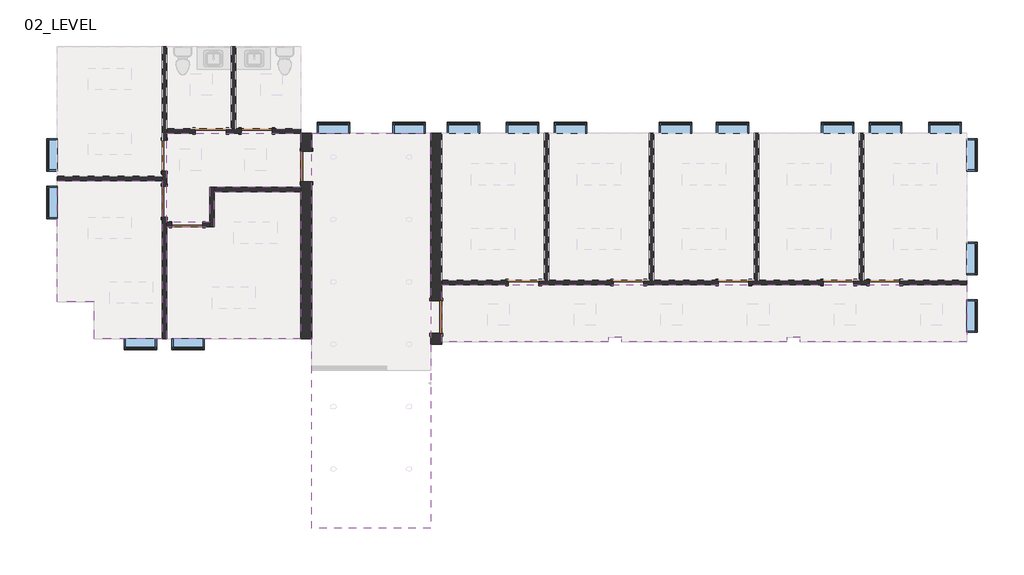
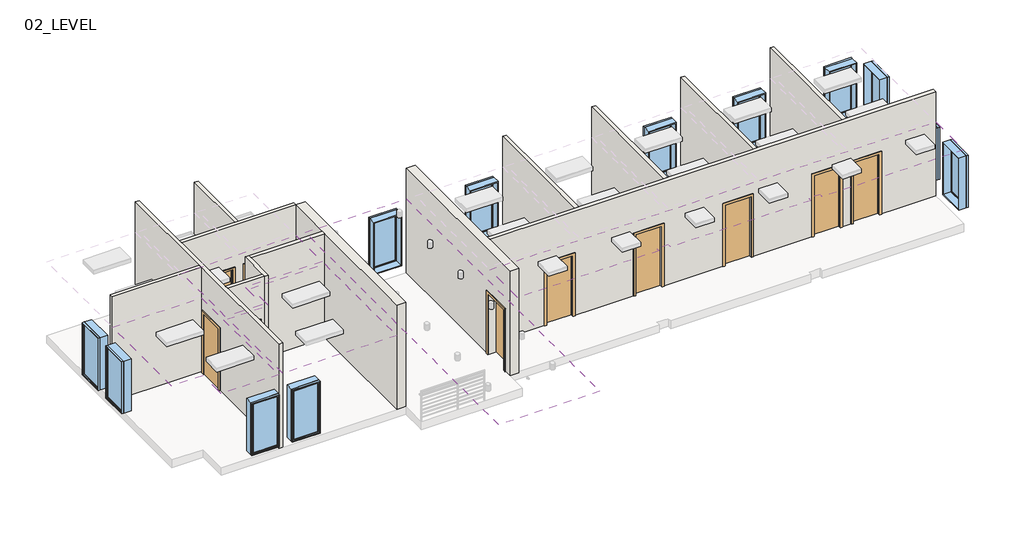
# One storey, part 1 of 2: 17 windows, 14 walls, 12 doors, 5 coverings.
"""IFC4 building model written with IfcOpenShell, lengths in millimetres."""

from ifc_helpers import new_model, si_unit, point, frame, frame_2d, origin, place, context, project, spatial, polyline, circle_curve, trimmed, segment, composite_curve, outline, extrude, faceted_brep, transform, mapped, element, save
from components import door_11f27327, door_dac54316, door_6c7271e6, door_180caff1, window_c524ad49, window_9a1f8bc2

model = new_model("IFC4")

# Units and contexts
model_context = context("Model", 3, world=origin())
ifc_project = project(units=[si_unit("LENGTHUNIT", "METRE", prefix="MILLI")], contexts=[model_context])

# Site, building, storey
site = spatial("IfcSite", under=ifc_project)
building = spatial("IfcBuilding", under=site)
storey = spatial("IfcBuildingStorey", under=building, Name="02_LEVEL", Elevation=3657.6)

# Coverings
placement = place(None, origin())
element("IfcCovering", 1, ObjectType="2' x 2' ACT System", at=placement, inside=storey, context=model_context, shape_type="SweptSolid", body=[
    extrude(outline(polyline([(22159.1816981, 26168.7332157), (22159.1816981, 27210.1332157), (21117.7816981, 27210.1332157), (21117.7816981, 30613.7332157), (24064.1816981, 30613.7332157), (24064.1816981, 26168.7332157), (22159.1816981, 26168.7332157)]), holes=[polyline([(23200.5816981, 29597.7332157), (21981.3816981, 29597.7332157), (21981.3816981, 28988.1332157), (23200.5816981, 28988.1332157), (23200.5816981, 29597.7332157)]), polyline([(23810.1816981, 27781.6332157), (22590.9816981, 27781.6332157), (22590.9816981, 27172.0332157), (23810.1816981, 27172.0332157), (23810.1816981, 27781.6332157)])]), frame((0.0, 0.0, 6248.4), z_axis=(0.0, 0.0, 1.0), x_axis=(1.0, 0.0, 0.0)), (0.0, 0.0, 1.0), 57.15),
])
element("IfcCovering", 2, ObjectType="2' x 2' ACT System", at=placement, inside=storey, context=model_context, shape_type="SweptSolid", body=[
    extrude(outline(polyline([(27975.7816981, 30308.9332157), (27975.7816981, 26168.7332157), (24191.1816981, 26168.7332157), (24191.1816981, 29318.3332157), (25537.3816981, 29318.3332157), (25537.3816981, 30308.9332157), (27975.7816981, 30308.9332157)]), holes=[polyline([(27302.6816981, 29458.0332157), (26083.4816981, 29458.0332157), (26083.4816981, 28848.4332157), (27302.6816981, 28848.4332157), (27302.6816981, 29458.0332157)]), polyline([(26693.0816981, 27629.2332157), (25473.8816981, 27629.2332157), (25473.8816981, 27019.6332157), (26693.0816981, 27019.6332157), (26693.0816981, 27629.2332157)])]), frame((0.0, 0.0, 6248.4), z_axis=(0.0, 0.0, 1.0), x_axis=(1.0, 0.0, 0.0)), (0.0, 0.0, 1.0), 57.15),
])
element("IfcCovering", 3, ObjectType="2' x 2' ACT System", at=placement, inside=storey, context=model_context, shape_type="SweptSolid", body=[
    extrude(outline(polyline([(24191.1816981, 31959.9332157), (27975.7816981, 31959.9332157), (27975.7816981, 30435.9332157), (25410.3816981, 30435.9332157), (25410.3816981, 29445.3332157), (24191.1816981, 29445.3332157), (24191.1816981, 31959.9332157)]), holes=[polyline([(26997.8816981, 31515.4332157), (26388.2816981, 31515.4332157), (26388.2816981, 30905.8332157), (26997.8816981, 30905.8332157), (26997.8816981, 31515.4332157)]), polyline([(25169.0816981, 31515.4332157), (24559.4816981, 31515.4332157), (24559.4816981, 30905.8332157), (25169.0816981, 30905.8332157), (25169.0816981, 31515.4332157)])]), frame((0.0, 0.0, 6248.4), z_axis=(0.0, 0.0, 1.0), x_axis=(1.0, 0.0, 0.0)), (0.0, 0.0, 1.0), 57.15),
])
element("IfcCovering", 4, ObjectType="2' x 2' ACT System", at=placement, inside=storey, context=model_context, shape_type="SweptSolid", body=[
    extrude(outline(polyline([(46720.9816981, 27692.7332157), (46720.9816981, 26079.8332157), (42034.6816981, 26079.8332157), (42034.6816981, 26206.8332157), (41653.6816981, 26206.8332157), (41653.6816981, 26079.8332157), (37005.4816981, 26079.8332157), (37005.4816981, 26206.8332157), (36624.4816981, 26206.8332157), (36624.4816981, 26079.8332157), (31938.1816981, 26079.8332157), (31938.1816981, 27692.7332157), (46720.9816981, 27692.7332157)]), holes=[polyline([(33843.1816981, 27159.3332157), (33233.5816981, 27159.3332157), (33233.5816981, 26549.7332157), (33843.1816981, 26549.7332157), (33843.1816981, 27159.3332157)]), polyline([(36281.5816981, 27159.3332157), (35671.9816981, 27159.3332157), (35671.9816981, 26549.7332157), (36281.5816981, 26549.7332157), (36281.5816981, 27159.3332157)]), polyline([(38719.9816981, 27159.3332157), (38110.3816981, 27159.3332157), (38110.3816981, 26549.7332157), (38719.9816981, 26549.7332157), (38719.9816981, 27159.3332157)]), polyline([(41158.3816981, 27159.3332157), (40548.7816981, 27159.3332157), (40548.7816981, 26549.7332157), (41158.3816981, 26549.7332157), (41158.3816981, 27159.3332157)]), polyline([(43596.7816981, 27159.3332157), (42987.1816981, 27159.3332157), (42987.1816981, 26549.7332157), (43596.7816981, 26549.7332157), (43596.7816981, 27159.3332157)]), polyline([(46035.1816981, 27159.3332157), (45425.5816981, 27159.3332157), (45425.5816981, 26549.7332157), (46035.1816981, 26549.7332157), (46035.1816981, 27159.3332157)])]), frame((0.0, 0.0, 6248.4), z_axis=(0.0, 0.0, 1.0), x_axis=(1.0, 0.0, 0.0)), (0.0, 0.0, 1.0), 57.15),
])
element("IfcCovering", 5, ObjectType="GWB on Mtl. Stud", at=placement, inside=storey, context=model_context, shape_type="SweptSolid", body=[
    extrude(outline(polyline([(31633.3816981, 31959.9332157), (31633.3816981, 20834.7332157), (28280.5816981, 20834.7332157), (28280.5816981, 31959.9332157), (31633.3816981, 31959.9332157)]), holes=[composite_curve([segment(trimmed(circle_curve(frame_2d((28890.1816981, 31286.8332157)), 76.2), [point((28813.9816981, 31286.8332157))], [point((28966.3816981, 31286.8332157))], True, "CARTESIAN"), True, "CONTINUOUS"), segment(trimmed(circle_curve(frame_2d((28890.1816981, 31286.8332157)), 76.2), [point((28966.3816981, 31286.8332157))], [point((28813.9816981, 31286.8332157))], True, "CARTESIAN"), True, "CONTINUOUS")], self_intersect=False), composite_curve([segment(trimmed(circle_curve(frame_2d((28890.1816981, 26016.3332157)), 76.2), [point((28813.9816981, 26016.3332157))], [point((28966.3816981, 26016.3332157))], True, "CARTESIAN"), True, "CONTINUOUS"), segment(trimmed(circle_curve(frame_2d((28890.1816981, 26016.3332157)), 76.2), [point((28966.3816981, 26016.3332157))], [point((28813.9816981, 26016.3332157))], True, "CARTESIAN"), True, "CONTINUOUS")], self_intersect=False), composite_curve([segment(trimmed(circle_curve(frame_2d((28890.1816981, 29529.9998824)), 76.2), [point((28813.9816981, 29529.9998824))], [point((28966.3816981, 29529.9998824))], True, "CARTESIAN"), True, "CONTINUOUS"), segment(trimmed(circle_curve(frame_2d((28890.1816981, 29529.9998824)), 76.2), [point((28966.3816981, 29529.9998824))], [point((28813.9816981, 29529.9998824))], True, "CARTESIAN"), True, "CONTINUOUS")], self_intersect=False), composite_curve([segment(trimmed(circle_curve(frame_2d((28890.1816981, 27773.166549)), 76.2), [point((28813.9816981, 27773.166549))], [point((28966.3816981, 27773.166549))], True, "CARTESIAN"), True, "CONTINUOUS"), segment(trimmed(circle_curve(frame_2d((28890.1816981, 27773.166549)), 76.2), [point((28966.3816981, 27773.166549))], [point((28813.9816981, 27773.166549))], True, "CARTESIAN"), True, "CONTINUOUS")], self_intersect=False), composite_curve([segment(trimmed(circle_curve(frame_2d((31023.7816981, 31286.8332157)), 76.2), [point((31099.9816981, 31286.8332157))], [point((30947.5816981, 31286.8332157))], True, "CARTESIAN"), True, "CONTINUOUS"), segment(trimmed(circle_curve(frame_2d((31023.7816981, 31286.8332157)), 76.2), [point((30947.5816981, 31286.8332157))], [point((31099.9816981, 31286.8332157))], True, "CARTESIAN"), True, "CONTINUOUS")], self_intersect=False), composite_curve([segment(trimmed(circle_curve(frame_2d((31023.7816981, 26016.3332157)), 76.2), [point((31099.9816981, 26016.3332157))], [point((30947.5816981, 26016.3332157))], True, "CARTESIAN"), True, "CONTINUOUS"), segment(trimmed(circle_curve(frame_2d((31023.7816981, 26016.3332157)), 76.2), [point((30947.5816981, 26016.3332157))], [point((31099.9816981, 26016.3332157))], True, "CARTESIAN"), True, "CONTINUOUS")], self_intersect=False), composite_curve([segment(trimmed(circle_curve(frame_2d((31023.7816981, 29529.9998824)), 76.2), [point((31099.9816981, 29529.9998824))], [point((30947.5816981, 29529.9998824))], True, "CARTESIAN"), True, "CONTINUOUS"), segment(trimmed(circle_curve(frame_2d((31023.7816981, 29529.9998824)), 76.2), [point((30947.5816981, 29529.9998824))], [point((31099.9816981, 29529.9998824))], True, "CARTESIAN"), True, "CONTINUOUS")], self_intersect=False), composite_curve([segment(trimmed(circle_curve(frame_2d((31023.7816981, 27773.166549)), 76.2), [point((31099.9816981, 27773.166549))], [point((30947.5816981, 27773.166549))], True, "CARTESIAN"), True, "CONTINUOUS"), segment(trimmed(circle_curve(frame_2d((31023.7816981, 27773.166549)), 76.2), [point((30947.5816981, 27773.166549))], [point((31099.9816981, 27773.166549))], True, "CARTESIAN"), True, "CONTINUOUS")], self_intersect=False), composite_curve([segment(trimmed(circle_curve(frame_2d((28890.1816981, 24259.4998824)), 76.2), [point((28813.9816981, 24259.4998824))], [point((28966.3816981, 24259.4998824))], True, "CARTESIAN"), True, "CONTINUOUS"), segment(trimmed(circle_curve(frame_2d((28890.1816981, 24259.4998824)), 76.2), [point((28966.3816981, 24259.4998824))], [point((28813.9816981, 24259.4998824))], True, "CARTESIAN"), True, "CONTINUOUS")], self_intersect=False), composite_curve([segment(trimmed(circle_curve(frame_2d((31023.7816981, 24259.4998824)), 76.2), [point((31099.9816981, 24259.4998824))], [point((30947.5816981, 24259.4998824))], True, "CARTESIAN"), True, "CONTINUOUS"), segment(trimmed(circle_curve(frame_2d((31023.7816981, 24259.4998824)), 76.2), [point((30947.5816981, 24259.4998824))], [point((31099.9816981, 24259.4998824))], True, "CARTESIAN"), True, "CONTINUOUS")], self_intersect=False), composite_curve([segment(trimmed(circle_curve(frame_2d((28890.1816981, 22502.666549)), 76.2), [point((28813.9816981, 22502.666549))], [point((28966.3816981, 22502.666549))], True, "CARTESIAN"), True, "CONTINUOUS"), segment(trimmed(circle_curve(frame_2d((28890.1816981, 22502.666549)), 76.2), [point((28966.3816981, 22502.666549))], [point((28813.9816981, 22502.666549))], True, "CARTESIAN"), True, "CONTINUOUS")], self_intersect=False), composite_curve([segment(trimmed(circle_curve(frame_2d((31023.7816981, 22502.666549)), 76.2), [point((31099.9816981, 22502.666549))], [point((30947.5816981, 22502.666549))], True, "CARTESIAN"), True, "CONTINUOUS"), segment(trimmed(circle_curve(frame_2d((31023.7816981, 22502.666549)), 76.2), [point((30947.5816981, 22502.666549))], [point((31099.9816981, 22502.666549))], True, "CARTESIAN"), True, "CONTINUOUS")], self_intersect=False)]), frame((0.0, 0.0, 6248.4), z_axis=(0.0, 0.0, 1.0), x_axis=(1.0, 0.0, 0.0)), (0.0, 0.0, 1.0), 107.95),
])

# Doors
door_shape = door_11f27327(model_context)
element("IfcDoor", 6, ObjectType="Door-Single-Panel : 34\" x 84\"", at=placement, inside=storey, context=model_context, shape_type="MappedRepresentation", body=[
    mapped(door_shape, transform((34247.0416981, 27756.2332157, 3657.6), x_axis=(1.0, 0.0, 0.0), y_axis=(0.0, 1.0, 0.0), z_axis=(0.0, 0.0, 1.0))),
])
element("IfcDoor", 7, ObjectType="Door-Single-Panel : 34\" x 84\"", at=placement, inside=storey, context=model_context, shape_type="MappedRepresentation", body=[
    mapped(door_shape, transform((37203.6016981, 27756.2332157, 3657.6), x_axis=(1.0, 0.0, 0.0), y_axis=(0.0, 1.0, 0.0), z_axis=(0.0, 0.0, 1.0))),
])
element("IfcDoor", 8, ObjectType="Door-Single-Panel : 34\" x 84\"", at=placement, inside=storey, context=model_context, shape_type="MappedRepresentation", body=[
    mapped(door_shape, transform((40160.1616981, 27756.2332157, 3657.6), x_axis=(1.0, 0.0, 0.0), y_axis=(0.0, 1.0, 0.0), z_axis=(0.0, 0.0, 1.0))),
])
element("IfcDoor", 9, ObjectType="Door-Single-Panel : 34\" x 84\"", at=placement, inside=storey, context=model_context, shape_type="MappedRepresentation", body=[
    mapped(door_shape, transform((43116.7216981, 27756.2332157, 3657.6), x_axis=(1.0, 0.0, 0.0), y_axis=(0.0, 1.0, 0.0), z_axis=(0.0, 0.0, 1.0))),
])
element("IfcDoor", 10, ObjectType="Door-Single-Panel : 34\" x 84\"", at=placement, inside=storey, context=model_context, shape_type="MappedRepresentation", body=[
    mapped(door_shape, transform((25435.7816981, 32023.4332157, 3657.6), x_axis=(1.0, 0.0, 0.0), y_axis=(0.0, 1.0, 0.0), z_axis=(0.0, 0.0, 1.0))),
])
element("IfcDoor", 11, ObjectType="Door-Single-Panel : 34\" x 84\"", at=placement, inside=storey, context=model_context, shape_type="MappedRepresentation", body=[
    mapped(door_shape, transform((24127.6816981, 30029.5332157, 3657.6), x_axis=(0.0, 1.0, 0.0), y_axis=(-1.0, 0.0, 0.0), z_axis=(0.0, 0.0, 1.0))),
])
element("IfcDoor", 12, ObjectType="Door-Single-Panel : 34\" x 84\"", at=placement, inside=storey, context=model_context, shape_type="MappedRepresentation", body=[
    mapped(door_shape, transform((24775.3816981, 29381.8332157, 3657.6), x_axis=(-1.0, 0.0, 0.0), y_axis=(0.0, -1.0, 0.0), z_axis=(0.0, 0.0, 1.0))),
])
door_2_shape = door_dac54316(model_context)
element("IfcDoor", 13, ObjectType="Door-Single-Panel : 34\" x 84\"", at=placement, inside=storey, context=model_context, shape_type="MappedRepresentation", body=[
    mapped(door_2_shape, transform((28128.1816981, 31020.1332157, 3657.6), x_axis=(0.0, -1.0, 0.0), y_axis=(1.0, 0.0, 0.0), z_axis=(0.0, 0.0, 1.0))),
])
door_3_shape = door_6c7271e6(model_context)
element("IfcDoor", 14, ObjectType="Door-Single-Panel : 34\" x 84\"", at=placement, inside=storey, context=model_context, shape_type="MappedRepresentation", body=[
    mapped(door_3_shape, transform((26731.1816981, 32023.4332157, 3657.6), x_axis=(-1.0, 0.0, 0.0), y_axis=(0.0, -1.0, 0.0), z_axis=(0.0, 0.0, 1.0))),
])
element("IfcDoor", 15, ObjectType="Door-Single-Panel : 34\" x 84\"", at=placement, inside=storey, context=model_context, shape_type="MappedRepresentation", body=[
    mapped(door_3_shape, transform((24127.6816981, 31324.9332157, 3657.6), x_axis=(0.0, -1.0, 0.0), y_axis=(1.0, 0.0, 0.0), z_axis=(0.0, 0.0, 1.0))),
])
element("IfcDoor", 16, ObjectType="Door-Single-Panel : 34\" x 84\"", at=placement, inside=storey, context=model_context, shape_type="MappedRepresentation", body=[
    mapped(door_3_shape, transform((44412.1216981, 27756.2332157, 3657.6), x_axis=(-1.0, 0.0, 0.0), y_axis=(0.0, -1.0, 0.0), z_axis=(0.0, 0.0, 1.0))),
])
door_4_shape = door_180caff1(model_context)
element("IfcDoor", 17, ObjectType="Door-Single-Panel : 36\" x 84\"", at=placement, inside=storey, context=model_context, shape_type="MappedRepresentation", body=[
    mapped(door_4_shape, transform((31785.7816981, 26778.3332157, 3657.6), x_axis=(0.0, -1.0, 0.0), y_axis=(1.0, 0.0, 0.0), z_axis=(0.0, 0.0, 1.0))),
])

# Walls
element("IfcWall", 18, ObjectType="Generic - 12\"", at=placement, inside=storey, context=model_context, shape_type="Brep", body=[
    faceted_brep([(28280.5816981, 26168.7332157, 3657.6), (28280.5816981, 30588.3332157, 3657.6), (28280.5816981, 30588.3332157, 5791.2), (28280.5816981, 31451.9332157, 5791.2), (28280.5816981, 31451.9332157, 3657.6), (28280.5816981, 31959.9332157, 3657.6), (28280.5816981, 31959.9332157, 7315.2), (28280.5816981, 26168.7332157, 7315.2), (27975.7816981, 30588.3332157, 5791.2), (27975.7816981, 30588.3332157, 3657.6), (27975.7816981, 30435.9332157, 3657.6), (27975.7816981, 30308.9332157, 3657.6), (27975.7816981, 26168.7332157, 3657.6), (27975.7816981, 26168.7332157, 7315.2), (27975.7816981, 30308.9332157, 7315.2), (27975.7816981, 30435.9332157, 7315.2), (27975.7816981, 31959.9332157, 7315.2), (27975.7816981, 31959.9332157, 3657.6), (27975.7816981, 31451.9332157, 3657.6), (27975.7816981, 31451.9332157, 5791.2)], [[[0, 1, 2, 3, 4, 5, 6, 7]], [[8, 9, 10, 11, 12, 13, 14, 15, 16, 17, 18, 19]], [[18, 17, 5, 4]], [[12, 11, 10, 9, 1, 0]], [[7, 6, 16, 15, 14, 13]], [[0, 7, 13, 12]], [[6, 5, 17, 16]], [[2, 1, 9, 8]], [[3, 2, 8, 19]], [[4, 3, 19, 18]]]),
])
element("IfcWall", 19, ObjectType="Generic - 12\"", at=placement, inside=storey, context=model_context, shape_type="Brep", body=[
    faceted_brep([(31938.1816981, 26016.3332157, 3657.6), (31938.1816981, 26321.1332157, 3657.6), (31938.1816981, 26321.1332157, 5791.2), (31938.1816981, 27235.5332157, 5791.2), (31938.1816981, 27235.5332157, 3657.6), (31938.1816981, 27692.7332157, 3657.6), (31938.1816981, 27819.7332157, 3657.6), (31938.1816981, 31959.9332157, 3657.6), (31938.1816981, 31959.9332157, 7315.2), (31938.1816981, 27819.7332157, 7315.2), (31938.1816981, 27692.7332157, 7315.2), (31938.1816981, 26168.7332157, 7315.2), (31938.1816981, 26016.3332157, 7315.2), (31633.3816981, 26321.1332157, 5791.2), (31633.3816981, 26321.1332157, 3657.6), (31633.3816981, 26016.3332157, 3657.6), (31633.3816981, 26016.3332157, 7315.2), (31633.3816981, 26168.7332157, 7315.2), (31633.3816981, 31959.9332157, 7315.2), (31633.3816981, 31959.9332157, 3657.6), (31633.3816981, 27235.5332157, 3657.6), (31633.3816981, 27235.5332157, 5791.2)], [[[0, 1, 2, 3, 4, 5, 6, 7, 8, 9, 10, 11, 12]], [[13, 14, 15, 16, 17, 18, 19, 20, 21]], [[20, 19, 7, 6, 5, 4]], [[15, 14, 1, 0]], [[12, 11, 10, 9, 8, 18, 17, 16]], [[0, 12, 16, 15]], [[2, 1, 14, 13]], [[3, 2, 13, 21]], [[4, 3, 21, 20]], [[8, 7, 19, 18]]]),
])
element("IfcWall", 20, ObjectType="Generic - 5\"", at=placement, inside=storey, context=model_context, shape_type="SweptSolid", body=[
    extrude(outline(polyline([(34831.2416981, 27819.7332157), (34831.2416981, 31959.9332157), (34958.2416981, 31959.9332157), (34958.2416981, 27819.7332157), (34831.2416981, 27819.7332157)])), frame((0.0, 0.0, 3657.6), z_axis=(0.0, 0.0, 1.0), x_axis=(1.0, 0.0, 0.0)), (0.0, 0.0, 1.0), 3657.6),
])
element("IfcWall", 21, ObjectType="Generic - 5\"", at=placement, inside=storey, context=model_context, shape_type="SweptSolid", body=[
    extrude(outline(polyline([(37787.8016981, 27819.7332157), (37787.8016981, 31959.9332157), (37914.8016981, 31959.9332157), (37914.8016981, 27819.7332157), (37787.8016981, 27819.7332157)])), frame((0.0, 0.0, 3657.6), z_axis=(0.0, 0.0, 1.0), x_axis=(1.0, 0.0, 0.0)), (0.0, 0.0, 1.0), 3657.6),
])
element("IfcWall", 22, ObjectType="Generic - 5\"", at=placement, inside=storey, context=model_context, shape_type="SweptSolid", body=[
    extrude(outline(polyline([(40744.3616981, 27819.7332157), (40744.3616981, 31959.9332157), (40871.3616981, 31959.9332157), (40871.3616981, 27819.7332157), (40744.3616981, 27819.7332157)])), frame((0.0, 0.0, 3657.6), z_axis=(0.0, 0.0, 1.0), x_axis=(1.0, 0.0, 0.0)), (0.0, 0.0, 1.0), 3657.6),
])
element("IfcWall", 23, ObjectType="Generic - 5\"", at=placement, inside=storey, context=model_context, shape_type="SweptSolid", body=[
    extrude(outline(polyline([(43700.9216981, 27819.7332157), (43700.9216981, 31959.9332157), (43827.9216981, 31959.9332157), (43827.9216981, 27819.7332157), (43700.9216981, 27819.7332157)])), frame((0.0, 0.0, 3657.6), z_axis=(0.0, 0.0, 1.0), x_axis=(1.0, 0.0, 0.0)), (0.0, 0.0, 1.0), 3657.6),
])
element("IfcWall", 24, ObjectType="Generic - 5\"", at=placement, inside=storey, context=model_context, shape_type="Brep", body=[
    faceted_brep([(43548.5216981, 27692.7332157, 3657.6), (43980.3216981, 27692.7332157, 3657.6), (43980.3216981, 27692.7332157, 5791.2), (44843.9216981, 27692.7332157, 5791.2), (44843.9216981, 27692.7332157, 3657.6), (46720.9816981, 27692.7332157, 3657.6), (46720.9816981, 27692.7332157, 7315.2), (31938.1816981, 27692.7332157, 7315.2), (31938.1816981, 27692.7332157, 3657.6), (33815.2416981, 27692.7332157, 3657.6), (33815.2416981, 27692.7332157, 5791.2), (34678.8416981, 27692.7332157, 5791.2), (34678.8416981, 27692.7332157, 3657.6), (36771.8016981, 27692.7332157, 3657.6), (36771.8016981, 27692.7332157, 5791.2), (37635.4016981, 27692.7332157, 5791.2), (37635.4016981, 27692.7332157, 3657.6), (39728.3616981, 27692.7332157, 3657.6), (39728.3616981, 27692.7332157, 5791.2), (40591.9616981, 27692.7332157, 5791.2), (40591.9616981, 27692.7332157, 3657.6), (42684.9216981, 27692.7332157, 3657.6), (42684.9216981, 27692.7332157, 5791.2), (43548.5216981, 27692.7332157, 5791.2), (43980.3216981, 27819.7332157, 5791.2), (43980.3216981, 27819.7332157, 3657.6), (43827.9216981, 27819.7332157, 3657.6), (43700.9216981, 27819.7332157, 3657.6), (43548.5216981, 27819.7332157, 3657.6), (43548.5216981, 27819.7332157, 5791.2), (42684.9216981, 27819.7332157, 5791.2), (42684.9216981, 27819.7332157, 3657.6), (40871.3616981, 27819.7332157, 3657.6), (40744.3616981, 27819.7332157, 3657.6), (40591.9616981, 27819.7332157, 3657.6), (40591.9616981, 27819.7332157, 5791.2), (39728.3616981, 27819.7332157, 5791.2), (39728.3616981, 27819.7332157, 3657.6), (37914.8016981, 27819.7332157, 3657.6), (37787.8016981, 27819.7332157, 3657.6), (37635.4016981, 27819.7332157, 3657.6), (37635.4016981, 27819.7332157, 5791.2), (36771.8016981, 27819.7332157, 5791.2), (36771.8016981, 27819.7332157, 3657.6), (34958.2416981, 27819.7332157, 3657.6), (34831.2416981, 27819.7332157, 3657.6), (34678.8416981, 27819.7332157, 3657.6), (34678.8416981, 27819.7332157, 5791.2), (33815.2416981, 27819.7332157, 5791.2), (33815.2416981, 27819.7332157, 3657.6), (31938.1816981, 27819.7332157, 3657.6), (31938.1816981, 27819.7332157, 7315.2), (34831.2416981, 27819.7332157, 7315.2), (34958.2416981, 27819.7332157, 7315.2), (37787.8016981, 27819.7332157, 7315.2), (37914.8016981, 27819.7332157, 7315.2), (40744.3616981, 27819.7332157, 7315.2), (40871.3616981, 27819.7332157, 7315.2), (43700.9216981, 27819.7332157, 7315.2), (43827.9216981, 27819.7332157, 7315.2), (46720.9816981, 27819.7332157, 7315.2), (46720.9816981, 27819.7332157, 3657.6), (44843.9216981, 27819.7332157, 3657.6), (44843.9216981, 27819.7332157, 5791.2)], [[[0, 1, 2, 3, 4, 5, 6, 7, 8, 9, 10, 11, 12, 13, 14, 15, 16, 17, 18, 19, 20, 21, 22, 23]], [[24, 25, 26, 27, 28, 29, 30, 31, 32, 33, 34, 35, 36, 37, 38, 39, 40, 41, 42, 43, 44, 45, 46, 47, 48, 49, 50, 51, 52, 53, 54, 55, 56, 57, 58, 59, 60, 61, 62, 63]], [[9, 8, 50, 49]], [[13, 12, 46, 45, 44, 43]], [[17, 16, 40, 39, 38, 37]], [[21, 20, 34, 33, 32, 31]], [[62, 61, 5, 4]], [[28, 27, 26, 25, 1, 0]], [[7, 6, 60, 59, 58, 57, 56, 55, 54, 53, 52, 51]], [[6, 5, 61, 60]], [[49, 48, 10, 9]], [[48, 47, 11, 10]], [[47, 46, 12, 11]], [[43, 42, 14, 13]], [[42, 41, 15, 14]], [[41, 40, 16, 15]], [[37, 36, 18, 17]], [[36, 35, 19, 18]], [[35, 34, 20, 19]], [[31, 30, 22, 21]], [[30, 29, 23, 22]], [[29, 28, 0, 23]], [[8, 7, 51, 50]], [[2, 1, 25, 24]], [[3, 2, 24, 63]], [[4, 3, 63, 62]]]),
])
element("IfcWall", 25, ObjectType="Generic - 5\"", at=placement, inside=storey, context=model_context, shape_type="SweptSolid", body=[
    extrude(outline(polyline([(26019.9816981, 32086.9332157), (26019.9816981, 34398.3332157), (26146.9816981, 34398.3332157), (26146.9816981, 32086.9332157), (26019.9816981, 32086.9332157)])), frame((0.0, 0.0, 3657.6), z_axis=(0.0, 0.0, 1.0), x_axis=(1.0, 0.0, 0.0)), (0.0, 0.0, 1.0), 3657.6),
])
element("IfcWall", 26, ObjectType="Generic - 5\"", at=placement, inside=storey, context=model_context, shape_type="Brep", body=[
    faceted_brep([(24064.1816981, 30893.1332157, 3657.6), (24064.1816981, 30740.7332157, 3657.6), (24064.1816981, 30613.7332157, 3657.6), (24064.1816981, 30461.3332157, 3657.6), (24064.1816981, 30461.3332157, 5791.2), (24064.1816981, 29597.7332157, 5791.2), (24064.1816981, 29597.7332157, 3657.6), (24064.1816981, 26168.7332157, 3657.6), (24064.1816981, 26168.7332157, 7315.2), (24064.1816981, 30613.7332157, 7315.2), (24064.1816981, 30740.7332157, 7315.2), (24064.1816981, 34398.3332157, 7315.2), (24064.1816981, 34398.3332157, 3657.6), (24064.1816981, 31756.7332157, 3657.6), (24064.1816981, 31756.7332157, 5791.2), (24064.1816981, 30893.1332157, 5791.2), (24191.1816981, 30461.3332157, 5791.2), (24191.1816981, 30461.3332157, 3657.6), (24191.1816981, 30893.1332157, 3657.6), (24191.1816981, 30893.1332157, 5791.2), (24191.1816981, 31756.7332157, 5791.2), (24191.1816981, 31756.7332157, 3657.6), (24191.1816981, 31959.9332157, 3657.6), (24191.1816981, 32086.9332157, 3657.6), (24191.1816981, 34398.3332157, 3657.6), (24191.1816981, 34398.3332157, 7315.2), (24191.1816981, 32086.9332157, 7315.2), (24191.1816981, 31959.9332157, 7315.2), (24191.1816981, 29445.3332157, 7315.2), (24191.1816981, 29318.3332157, 7315.2), (24191.1816981, 26168.7332157, 7315.2), (24191.1816981, 26168.7332157, 3657.6), (24191.1816981, 29318.3332157, 3657.6), (24191.1816981, 29445.3332157, 3657.6), (24191.1816981, 29597.7332157, 3657.6), (24191.1816981, 29597.7332157, 5791.2)], [[[0, 1, 2, 3, 4, 5, 6, 7, 8, 9, 10, 11, 12, 13, 14, 15]], [[16, 17, 18, 19, 20, 21, 22, 23, 24, 25, 26, 27, 28, 29, 30, 31, 32, 33, 34, 35]], [[13, 12, 24, 23, 22, 21]], [[18, 17, 3, 2, 1, 0]], [[34, 33, 32, 31, 7, 6]], [[11, 10, 9, 8, 30, 29, 28, 27, 26, 25]], [[12, 11, 25, 24]], [[8, 7, 31, 30]], [[19, 18, 0, 15]], [[20, 19, 15, 14]], [[21, 20, 14, 13]], [[4, 3, 17, 16]], [[5, 4, 16, 35]], [[6, 5, 35, 34]]]),
])
element("IfcWall", 27, ObjectType="Generic - 5\"", at=placement, inside=storey, context=model_context, shape_type="Brep", body=[
    faceted_brep([(26299.3816981, 32086.9332157, 3657.6), (26146.9816981, 32086.9332157, 3657.6), (26019.9816981, 32086.9332157, 3657.6), (25867.5816981, 32086.9332157, 3657.6), (25867.5816981, 32086.9332157, 5791.2), (25003.9816981, 32086.9332157, 5791.2), (25003.9816981, 32086.9332157, 3657.6), (24191.1816981, 32086.9332157, 3657.6), (24191.1816981, 32086.9332157, 7315.2), (26019.9816981, 32086.9332157, 7315.2), (26146.9816981, 32086.9332157, 7315.2), (27975.7816981, 32086.9332157, 7315.2), (27975.7816981, 32086.9332157, 3657.6), (27162.9816981, 32086.9332157, 3657.6), (27162.9816981, 32086.9332157, 5791.2), (26299.3816981, 32086.9332157, 5791.2), (25867.5816981, 31959.9332157, 5791.2), (25867.5816981, 31959.9332157, 3657.6), (26299.3816981, 31959.9332157, 3657.6), (26299.3816981, 31959.9332157, 5791.2), (27162.9816981, 31959.9332157, 5791.2), (27162.9816981, 31959.9332157, 3657.6), (27975.7816981, 31959.9332157, 3657.6), (27975.7816981, 31959.9332157, 7315.2), (24191.1816981, 31959.9332157, 7315.2), (24191.1816981, 31959.9332157, 3657.6), (25003.9816981, 31959.9332157, 3657.6), (25003.9816981, 31959.9332157, 5791.2)], [[[0, 1, 2, 3, 4, 5, 6, 7, 8, 9, 10, 11, 12, 13, 14, 15]], [[16, 17, 18, 19, 20, 21, 22, 23, 24, 25, 26, 27]], [[13, 12, 22, 21]], [[26, 25, 7, 6]], [[18, 17, 3, 2, 1, 0]], [[11, 10, 9, 8, 24, 23]], [[8, 7, 25, 24]], [[12, 11, 23, 22]], [[19, 18, 0, 15]], [[20, 19, 15, 14]], [[21, 20, 14, 13]], [[4, 3, 17, 16]], [[5, 4, 16, 27]], [[6, 5, 27, 26]]]),
])
element("IfcWall", 28, ObjectType="Generic - 5\"", at=placement, inside=storey, context=model_context, shape_type="SweptSolid", body=[
    extrude(outline(polyline([(25537.3816981, 30435.9332157), (27975.7816981, 30435.9332157), (27975.7816981, 30308.9332157), (25537.3816981, 30308.9332157), (25537.3816981, 30435.9332157)])), frame((0.0, 0.0, 3657.6), z_axis=(0.0, 0.0, 1.0), x_axis=(1.0, 0.0, 0.0)), (0.0, 0.0, 1.0), 3657.6),
])
element("IfcWall", 29, ObjectType="Generic - 5\"", at=placement, inside=storey, context=model_context, shape_type="SweptSolid", body=[
    extrude(outline(polyline([(21117.7816981, 30740.7332157), (24064.1816981, 30740.7332157), (24064.1816981, 30613.7332157), (21117.7816981, 30613.7332157), (21117.7816981, 30740.7332157)])), frame((0.0, 0.0, 3657.6), z_axis=(0.0, 0.0, 1.0), x_axis=(1.0, 0.0, 0.0)), (0.0, 0.0, 1.0), 3657.6),
])
element("IfcWall", 30, ObjectType="Generic - 5\"", at=placement, inside=storey, context=model_context, shape_type="Brep", body=[
    faceted_brep([(25410.3816981, 30435.9332157, 3657.6), (25410.3816981, 29445.3332157, 3657.6), (25410.3816981, 29318.3332157, 3657.6), (25410.3816981, 29318.3332157, 7315.2), (25410.3816981, 29445.3332157, 7315.2), (25410.3816981, 30435.9332157, 7315.2), (25537.3816981, 30435.9332157, 3657.6), (25537.3816981, 30435.9332157, 7315.2), (25537.3816981, 30308.9332157, 7315.2), (25537.3816981, 29318.3332157, 7315.2), (25537.3816981, 29318.3332157, 3657.6), (25537.3816981, 30308.9332157, 3657.6)], [[[0, 1, 2, 3, 4, 5]], [[6, 7, 8, 9, 10, 11]], [[2, 1, 0, 6, 11, 10]], [[5, 4, 3, 9, 8, 7]], [[3, 2, 10, 9]], [[0, 5, 7, 6]]]),
])
element("IfcWall", 31, ObjectType="Generic - 5\"", at=placement, inside=storey, context=model_context, shape_type="SweptSolid", body=[
    extrude(outline(polyline([(3657.6, 24191.1816981), (3657.6, 24343.5816981), (5791.2, 24343.5816981), (5791.2, 25207.1816981), (3657.6, 25207.1816981), (3657.6, 25410.3816981), (7315.2, 25410.3816981), (7315.2, 24191.1816981), (3657.6, 24191.1816981)])), frame((0.0, 29318.3332157, 0.0), z_axis=(0.0, 1.0, 0.0), x_axis=(0.0, 0.0, 1.0)), (0.0, 0.0, 1.0), 127.0),
])

# Windows
window_shape = window_c524ad49(model_context)
element("IfcWindow", 32, ObjectType="Fixed : 36\" x 72\"", at=placement, inside=storey, context=model_context, shape_type="MappedRepresentation", body=[
    mapped(window_shape, transform((46873.3816981, 26771.9832157, 3657.6), x_axis=(0.0, -1.0, 0.0), y_axis=(1.0, 0.0, 0.0), z_axis=(0.0, 0.0, 1.0))),
])
element("IfcWindow", 33, ObjectType="Fixed : 36\" x 72\"", at=placement, inside=storey, context=model_context, shape_type="MappedRepresentation", body=[
    mapped(window_shape, transform((34259.7416981, 32112.3332157, 3657.6), x_axis=(1.0, 0.0, 0.0), y_axis=(0.0, 1.0, 0.0), z_axis=(0.0, 0.0, 1.0))),
])
element("IfcWindow", 34, ObjectType="Fixed : 36\" x 72\"", at=placement, inside=storey, context=model_context, shape_type="MappedRepresentation", body=[
    mapped(window_shape, transform((40172.8616981, 32112.3332157, 3657.6), x_axis=(1.0, 0.0, 0.0), y_axis=(0.0, 1.0, 0.0), z_axis=(0.0, 0.0, 1.0))),
])
element("IfcWindow", 35, ObjectType="Fixed : 36\" x 72\"", at=placement, inside=storey, context=model_context, shape_type="MappedRepresentation", body=[
    mapped(window_shape, transform((43129.4216981, 32112.3332157, 3657.6), x_axis=(1.0, 0.0, 0.0), y_axis=(0.0, 1.0, 0.0), z_axis=(0.0, 0.0, 1.0))),
])
element("IfcWindow", 36, ObjectType="Fixed : 36\" x 72\"", at=placement, inside=storey, context=model_context, shape_type="MappedRepresentation", body=[
    mapped(window_shape, transform((46149.4816981, 32112.3332157, 3657.6), x_axis=(1.0, 0.0, 0.0), y_axis=(0.0, 1.0, 0.0), z_axis=(0.0, 0.0, 1.0))),
])
element("IfcWindow", 37, ObjectType="Fixed : 36\" x 72\"", at=placement, inside=storey, context=model_context, shape_type="MappedRepresentation", body=[
    mapped(window_shape, transform((31061.8816981, 32112.3332157, 3657.6), x_axis=(1.0, 0.0, 0.0), y_axis=(0.0, 1.0, 0.0), z_axis=(0.0, 0.0, 1.0))),
])
element("IfcWindow", 38, ObjectType="Fixed : 36\" x 72\"", at=placement, inside=storey, context=model_context, shape_type="MappedRepresentation", body=[
    mapped(window_shape, transform((46873.3816981, 31312.2332157, 3657.6), x_axis=(0.0, -1.0, 0.0), y_axis=(1.0, 0.0, 0.0), z_axis=(0.0, 0.0, 1.0))),
])
element("IfcWindow", 39, ObjectType="Fixed : 36\" x 72\"", at=placement, inside=storey, context=model_context, shape_type="MappedRepresentation", body=[
    mapped(window_shape, transform((46873.3816981, 28391.2332157, 3657.6), x_axis=(0.0, -1.0, 0.0), y_axis=(1.0, 0.0, 0.0), z_axis=(0.0, 0.0, 1.0))),
])
element("IfcWindow", 40, ObjectType="Fixed : 36\" x 72\"", at=placement, inside=storey, context=model_context, shape_type="MappedRepresentation", body=[
    mapped(window_shape, transform((23416.4816981, 26016.3332157, 3657.6), x_axis=(-1.0, 0.0, 0.0), y_axis=(0.0, -1.0, 0.0), z_axis=(0.0, 0.0, 1.0))),
])
element("IfcWindow", 41, ObjectType="Fixed : 36\" x 72\"", at=placement, inside=storey, context=model_context, shape_type="MappedRepresentation", body=[
    mapped(window_shape, transform((24762.6816981, 26016.3332157, 3657.6), x_axis=(-1.0, 0.0, 0.0), y_axis=(0.0, -1.0, 0.0), z_axis=(0.0, 0.0, 1.0))),
])
element("IfcWindow", 42, ObjectType="Fixed : 36\" x 72\"", at=placement, inside=storey, context=model_context, shape_type="MappedRepresentation", body=[
    mapped(window_shape, transform((20965.3816981, 30042.2332157, 3657.6), x_axis=(0.0, 1.0, 0.0), y_axis=(-1.0, 0.0, 0.0), z_axis=(0.0, 0.0, 1.0))),
])
element("IfcWindow", 43, ObjectType="Fixed : 36\" x 72\"", at=placement, inside=storey, context=model_context, shape_type="MappedRepresentation", body=[
    mapped(window_shape, transform((20965.3816981, 31388.4332157, 3657.6), x_axis=(0.0, 1.0, 0.0), y_axis=(-1.0, 0.0, 0.0), z_axis=(0.0, 0.0, 1.0))),
])
window_2_shape = window_9a1f8bc2(model_context)
element("IfcWindow", 44, ObjectType="Fixed : 36\" x 72\"", at=placement, inside=storey, context=model_context, shape_type="MappedRepresentation", body=[
    mapped(window_2_shape, transform((35529.7416981, 32112.3332157, 3657.6), x_axis=(-1.0, 0.0, 0.0), y_axis=(0.0, -1.0, 0.0), z_axis=(0.0, 0.0, 1.0))),
])
element("IfcWindow", 45, ObjectType="Fixed : 36\" x 72\"", at=placement, inside=storey, context=model_context, shape_type="MappedRepresentation", body=[
    mapped(window_2_shape, transform((38486.3016981, 32112.3332157, 3657.6), x_axis=(-1.0, 0.0, 0.0), y_axis=(0.0, -1.0, 0.0), z_axis=(0.0, 0.0, 1.0))),
])
element("IfcWindow", 46, ObjectType="Fixed : 36\" x 72\"", at=placement, inside=storey, context=model_context, shape_type="MappedRepresentation", body=[
    mapped(window_2_shape, transform((44399.4216981, 32112.3332157, 3657.6), x_axis=(-1.0, 0.0, 0.0), y_axis=(0.0, -1.0, 0.0), z_axis=(0.0, 0.0, 1.0))),
])
element("IfcWindow", 47, ObjectType="Fixed : 36\" x 72\"", at=placement, inside=storey, context=model_context, shape_type="MappedRepresentation", body=[
    mapped(window_2_shape, transform((32509.6816981, 32112.3332157, 3657.6), x_axis=(-1.0, 0.0, 0.0), y_axis=(0.0, -1.0, 0.0), z_axis=(0.0, 0.0, 1.0))),
])
element("IfcWindow", 48, ObjectType="Fixed : 36\" x 72\"", at=placement, inside=storey, context=model_context, shape_type="MappedRepresentation", body=[
    mapped(window_2_shape, transform((28852.0816981, 32112.3332157, 3657.6), x_axis=(-1.0, 0.0, 0.0), y_axis=(0.0, -1.0, 0.0), z_axis=(0.0, 0.0, 1.0))),
])

save(model, "model.ifc")
